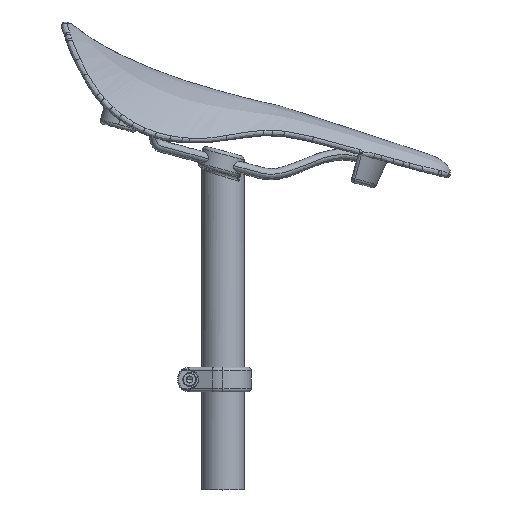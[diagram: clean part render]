
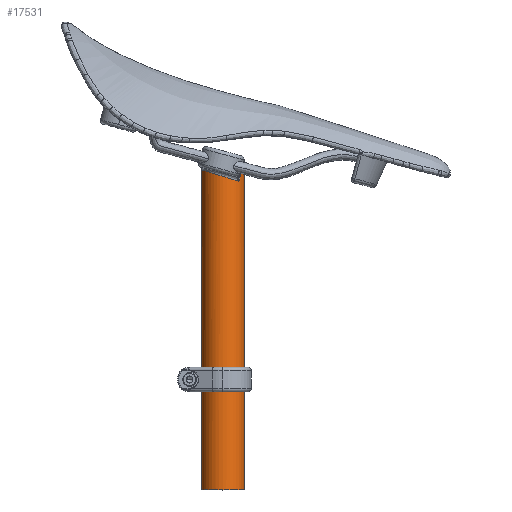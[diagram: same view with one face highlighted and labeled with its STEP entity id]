
A CAD part, top view. The second image highlights one B-rep face of the part: STEP entity #17531.
In plain terms, the highlighted cylindrical face has radius 13 mm (diameter 26 mm), a partial arc.
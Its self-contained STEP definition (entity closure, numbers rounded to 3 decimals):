
#1896 = VECTOR ( 'NONE', #16159, 1000. ) ;
#2519 = CARTESIAN_POINT ( 'NONE',  ( 114.256, -200.565, 0. ) ) ;
#2610 = VERTEX_POINT ( 'NONE', #19904 ) ;
#4614 = EDGE_CURVE ( 'NONE', #32839, #9734, #31923, .T. ) ;
#5854 = VECTOR ( 'NONE', #15531, 1000. ) ;
#6710 = VERTEX_POINT ( 'NONE', #23000 ) ;
#6836 = AXIS2_PLACEMENT_3D ( 'NONE', #22782, #31030, #31212 ) ;
#7111 = CARTESIAN_POINT ( 'NONE',  ( 141.44, 1.344, 0. ) ) ;
#8248 = CARTESIAN_POINT ( 'NONE',  ( 164.92, -11.482, -14.422 ) ) ;
#9590 =( BOUNDED_CURVE ( )  B_SPLINE_CURVE ( 3, ( #35319, #10947, #8248, #30126 ),
 .UNSPECIFIED., .F., .F. ) 
 B_SPLINE_CURVE_WITH_KNOTS ( ( 4, 4 ),
 ( 3.848, 6.283 ),
 .UNSPECIFIED. ) 
 CURVE ( )  GEOMETRIC_REPRESENTATION_ITEM ( )  RATIONAL_B_SPLINE_CURVE ( ( 1., 0.564, 0.564, 1. ) ) 
 REPRESENTATION_ITEM ( '' )  );
#9713 = CARTESIAN_POINT ( 'NONE',  ( 141.44, 1.344, 0. ) ) ;
#9734 = VERTEX_POINT ( 'NONE', #12894 ) ;
#10148 = LINE ( 'NONE', #16068, #5854 ) ;
#10947 = CARTESIAN_POINT ( 'NONE',  ( 150.767, -12.021, -19.409 ) ) ;
#11923 = EDGE_CURVE ( 'NONE', #12554, #6710, #33028, .T. ) ;
#12554 = VERTEX_POINT ( 'NONE', #2519 ) ;
#12704 = ORIENTED_EDGE ( 'NONE', *, *, #24397, .T. ) ;
#12894 = CARTESIAN_POINT ( 'NONE',  ( 140.978, -12.394, -8.437 ) ) ;
#12995 = AXIS2_PLACEMENT_3D ( 'NONE', #26760, #27650, #14037 ) ;
#13049 = ORIENTED_EDGE ( 'NONE', *, *, #23948, .F. ) ;
#14037 = DIRECTION ( 'NONE',  ( -0.966, 0.259, 0. ) ) ;
#15531 = DIRECTION ( 'NONE',  ( 0.259, 0.966, 0. ) ) ;
#16068 = CARTESIAN_POINT ( 'NONE',  ( 114.256, -200.565, 0. ) ) ;
#16159 = DIRECTION ( 'NONE',  ( 0.259, 0.966, 0. ) ) ;
#17418 = ORIENTED_EDGE ( 'NONE', *, *, #25842, .T. ) ;
#17531 = ADVANCED_FACE ( 'NONE', ( #33358 ), #22611, .T. ) ;
#18838 = LINE ( 'NONE', #29794, #1896 ) ;
#19904 = CARTESIAN_POINT ( 'NONE',  ( 164.92, -11.482, 0. ) ) ;
#21265 = CARTESIAN_POINT ( 'NONE',  ( 140.978, -12.394, -8.437 ) ) ;
#22611 = CYLINDRICAL_SURFACE ( 'NONE', #6836, 13. ) ;
#22782 = CARTESIAN_POINT ( 'NONE',  ( 101.699, -197.2, 0. ) ) ;
#23000 = CARTESIAN_POINT ( 'NONE',  ( 89.142, -193.836, 0. ) ) ;
#23948 = EDGE_CURVE ( 'NONE', #12554, #2610, #10148, .T. ) ;
#24397 = EDGE_CURVE ( 'NONE', #6710, #32839, #18838, .T. ) ;
#25842 = EDGE_CURVE ( 'NONE', #9734, #2610, #9590, .T. ) ;
#26760 = CARTESIAN_POINT ( 'NONE',  ( 101.699, -197.2, 0. ) ) ;
#27650 = DIRECTION ( 'NONE',  ( 0.259, 0.966, 0. ) ) ;
#29390 = ORIENTED_EDGE ( 'NONE', *, *, #11923, .T. ) ;
#29523 = CARTESIAN_POINT ( 'NONE',  ( 141.279, -3.432, -6.059 ) ) ;
#29794 = CARTESIAN_POINT ( 'NONE',  ( 89.142, -193.836, 0. ) ) ;
#30126 = CARTESIAN_POINT ( 'NONE',  ( 164.92, -11.482, 0. ) ) ;
#30562 = ORIENTED_EDGE ( 'NONE', *, *, #4614, .T. ) ;
#31030 = DIRECTION ( 'NONE',  ( 0.259, 0.966, 0. ) ) ;
#31212 = DIRECTION ( 'NONE',  ( -0.966, 0.259, 0. ) ) ;
#31923 =( BOUNDED_CURVE ( )  B_SPLINE_CURVE ( 3, ( #7111, #34536, #29523, #21265 ),
 .UNSPECIFIED., .F., .F. ) 
 B_SPLINE_CURVE_WITH_KNOTS ( ( 4, 4 ),
 ( 0., 0.706 ),
 .UNSPECIFIED. ) 
 CURVE ( )  GEOMETRIC_REPRESENTATION_ITEM ( )  RATIONAL_B_SPLINE_CURVE ( ( 1., 0.959, 0.959, 1. ) ) 
 REPRESENTATION_ITEM ( '' )  );
#32839 = VERTEX_POINT ( 'NONE', #9713 ) ;
#33028 = CIRCLE ( 'NONE', #12995, 13. ) ;
#33358 = FACE_OUTER_BOUND ( 'NONE', #35406, .T. ) ;
#34536 = CARTESIAN_POINT ( 'NONE',  ( 141.44, 1.344, -3.126 ) ) ;
#35319 = CARTESIAN_POINT ( 'NONE',  ( 140.978, -12.394, -8.437 ) ) ;
#35406 = EDGE_LOOP ( 'NONE', ( #13049, #29390, #12704, #30562, #17418 ) ) ;
